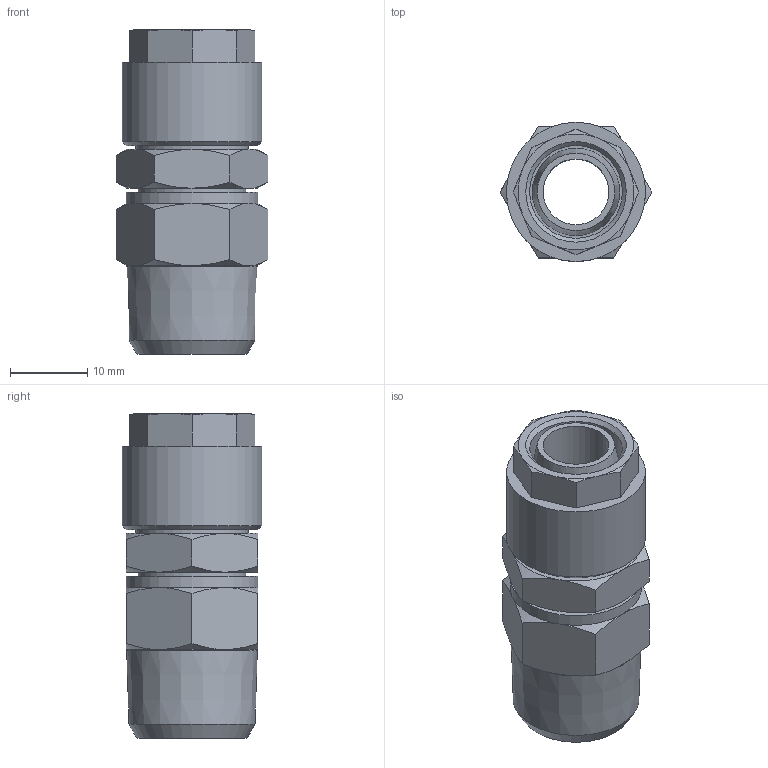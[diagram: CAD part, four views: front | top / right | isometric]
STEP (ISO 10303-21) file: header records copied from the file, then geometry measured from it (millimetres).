
FILE_DESCRIPTION(/* description */ (''),/* implementation_level */ '2;1');
FILE_NAME(/* name */ '10106_301DK_12-10_R38_20.07.16',/* time_stamp */ '2016-07-20T09:55:33+02:00',/* author */ (''),/* organization */ (''),/* preprocessor_version */ 'ST-DEVELOPER v16.5',/* originating_system */ 'HiCAD 2016 2101.0 Build 254',/* authorisation */ '');
FILE_SCHEMA (('AUTOMOTIVE_DESIGN { 1 0 10303 214 1 1 1 1 }'));
Length unit declared in the file: millimetre
Products named in the file (4): Root; 10106_Gewinde; 17008; 10106_Anschluss
Assembly tree (3 placements, depth 2):
  Root
    10106_Gewinde
    17008
    10106_Anschluss
Bounding box: 19.63 x 18 x 42 mm (x, y, z)
Volume: 6736.6 mm3; surface area: 6138.7 mm2
Topology: 3 solids, 3 shells, 90 faces, 193 edges, 119 vertices
Faces by surface type: cone 43, plane 34, cylinder 12, torus 1
Full cylindrical faces by diameter (mm): 8.5 x1, 10 x1, 10.5 x1, 12 x1, 13.9 x1, 14 x1, 14.5 x1, 14.73 x1, 16 x1, 16.9 x1, 17 x1, 18 x1
Entity records: 3946 total; most frequent: DIRECTION 482, CARTESIAN_POINT 364, PRESENTATION_STYLE_ASSIGNMENT 321, COLOUR_RGB 319, DRAUGHTING_PRE_DEFINED_CURVE_FONT 318, CURVE_STYLE 318, OVER_RIDING_STYLED_ITEM 318, ORIENTED_EDGE 318
